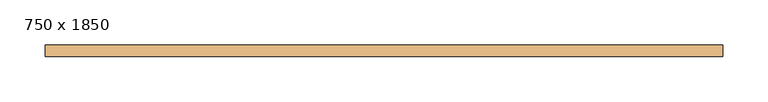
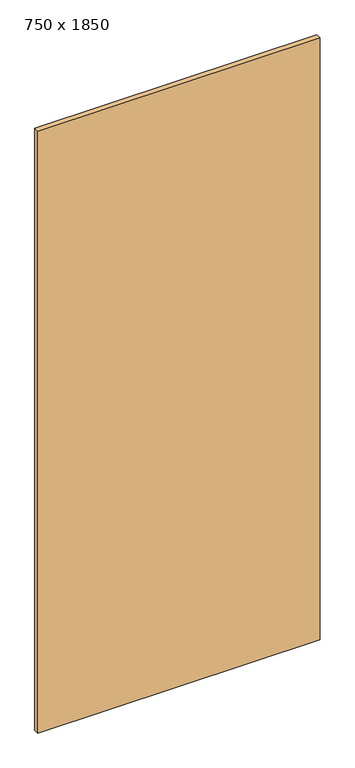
"""IFC4 building model written with IfcOpenShell, lengths in millimetres: door geometry, Door_Zeppelin-Rental-GmbH_Single-Leaf-Door_Sanitary : 750 x 1850."""

from ifc_helpers import new_model, si_unit, frame, origin, place, context, project, spatial, polyline, outline, extrude, source, transform, mapped, element, save


def door_750_x_1850_40ba4f02(model_context):
    return source(origin(), model_context, "Body", "SweptSolid", [
        extrude(outline(polyline([(375.0, -6.5), (-375.0, -6.5), (-375.0, 6.5), (375.0, 6.5), (375.0, -6.5)])), frame((0.0, 0.0, 160.0), z_axis=(0.0, 0.0, 1.0), x_axis=(1.0, 0.0, 0.0)), (0.0, 0.0, 1.0), 1690.0),
    ])


if __name__ == "__main__":
    model = new_model("IFC4")
    model_context = context("Model", 3, world=origin())
    ifc_project = project(units=[si_unit("LENGTHUNIT", "METRE", prefix="MILLI")], contexts=[model_context])
    site = spatial("IfcSite", under=ifc_project)
    building = spatial("IfcBuilding", under=site)
    placement = place(None, origin())
    door_750_x_1850_shape = door_750_x_1850_40ba4f02(model_context)
    element("IfcDoor", 1, ObjectType="Door_Zeppelin-Rental-GmbH_Single-Leaf-Door_Sanitary : 750 x 1850", at=placement, inside=building, context=model_context, shape_type="MappedRepresentation", body=[
        mapped(door_750_x_1850_shape, transform((0.0, 0.0, 0.0), x_axis=(1.0, 0.0, 0.0), y_axis=(0.0, 1.0, 0.0), z_axis=(0.0, 0.0, 1.0))),
    ])
    save(model, "model.ifc")
